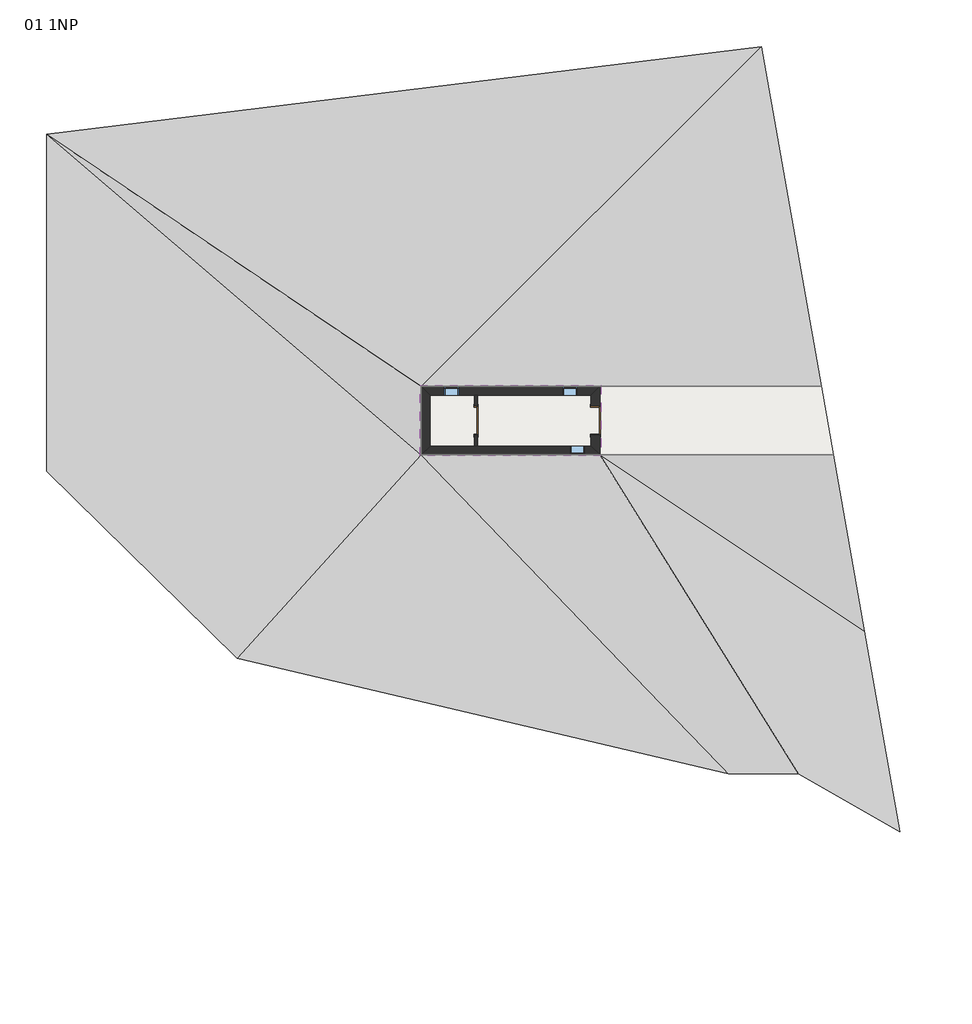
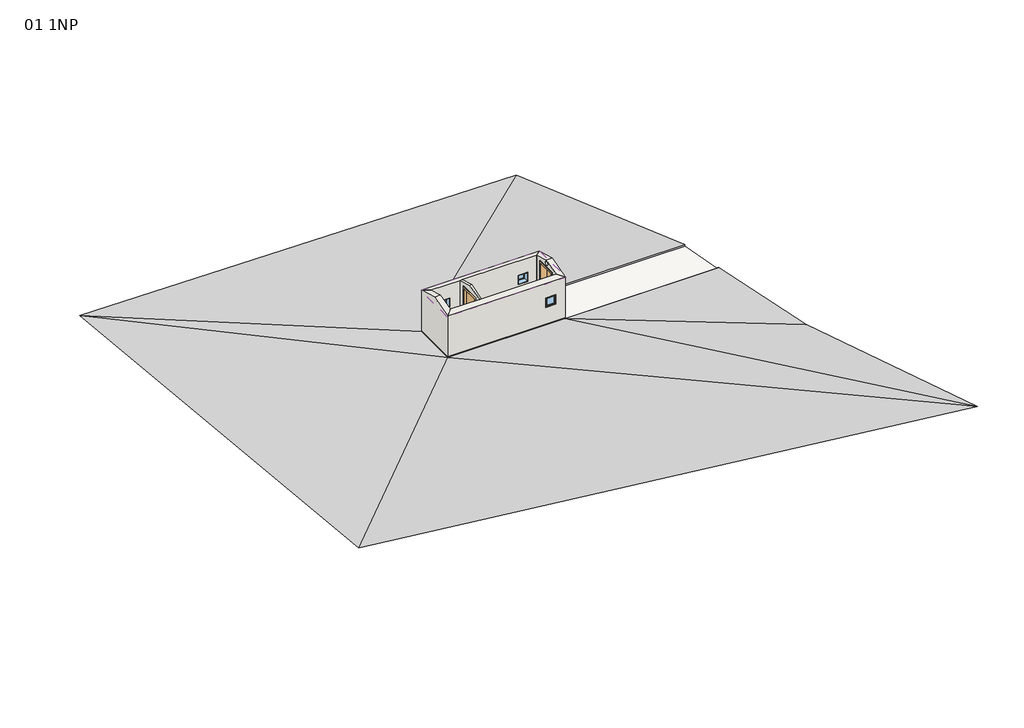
# One storey, incomplete: 5 walls, 3 windows, 2 doors, 2 proxies, 1 roof, 1 slab.
"""IFC4 building model written with IfcOpenShell, lengths in millimetres."""

from ifc_helpers import new_model, si_unit, frame, origin, place, context, project, spatial, polyline, circle_curve, outline, extrude, faceted_brep, triangles, transform, mapped, element, save
from ifc_brep_helpers import plane_surface, revolved_surface, advanced_brep
from components import ex_900x2050_f65e0c41, in_900x2050_6898c993, okno_500x500_e55a055e, okno_500x500_607495a5

model = new_model("IFC4")

# Units and contexts
model_context = context("Model", 3, world=origin())
ifc_project = project(units=[si_unit("LENGTHUNIT", "METRE", prefix="MILLI")], contexts=[model_context])

# Site, building, storey
site = spatial("IfcSite", under=ifc_project)
building = spatial("IfcBuilding", under=site)
storey = spatial("IfcBuildingStorey", under=building, Name="01 1NP", Elevation=0.0)

# Proxies
placement = place(None, origin())
element("IfcBuildingElementProxy", 1, Name="Building Element Proxy", at=placement, inside=storey, context=model_context, shape_type="Tessellation", body=[
    triangles([(-22350.4729614, 9422.7870529, 100.0000008), (-22350.4729614, -15176.8480408, 2500.0000191), (7075.9925079, -18789.9635468, 2000.0000153), (5033.5869415, -7206.9042847, 100.0000008), (3993.209166, -1306.6295471, -50.0000004), (-3816.910334, -1306.6295471, -50.0000004), (-9816.9100891, -1306.6295471, -50.0000004), (-9816.9100891, 993.3704704, -50.0000004), (-3816.910334, 993.3704704, -50.0000004), (3587.6571762, 993.3704704, -50.0000004), (1583.1549648, 12361.4664001, -2500.0000191)], [[2, 7, 1], [6, 7, 3], [11, 1, 8], [8, 1, 7], [7, 2, 3], [5, 6, 4], [9, 10, 11], [9, 11, 8], [4, 6, 3]], closed=False),
])
element("IfcBuildingElementProxy", 2, Name="Building Element Proxy", at=placement, inside=storey, context=model_context, shape_type="Tessellation", body=[
    triangles([(3587.6571762, 993.3704704, -300.1595311), (3587.6571762, 993.3704704, -50.0000004), (-3816.910334, 993.3704704, -300.1595311), (-3816.910334, 993.3704704, -50.0000004), (-9816.9100891, 993.3704704, -300.1595311), (-9816.9100891, 993.3704704, -50.0000004), (-9816.9100891, -1306.6295471, -300.1595311), (-9816.9100891, -1306.6295471, -50.0000004)], [[1, 4, 2], [1, 3, 4], [3, 6, 4], [3, 5, 6], [5, 8, 6], [5, 7, 8]], closed=False),
    triangles([(-9816.9100891, -1306.6295471, -300.1595311), (-9816.9100891, -1306.6295471, -50.0000004), (-3816.910334, -1306.6295471, -300.1595311), (-3816.910334, -1306.6295471, -50.0000004), (3993.209166, -1306.6295471, -300.1595311), (3993.209166, -1306.6295471, -50.0000004)], [[1, 4, 2], [1, 3, 4], [3, 6, 4], [3, 5, 6]], closed=False),
    triangles([(-9816.9100891, -1306.6295471, -300.1595311), (3993.209166, -1306.6295471, -300.1595311), (3587.6571762, 993.3704704, -300.1595311), (-9816.9100891, 993.3704704, -300.1595311)], [[4, 1, 3], [2, 3, 1]], closed=False),
])

# Doors
ex_900x2050_shape = ex_900x2050_f65e0c41(model_context)
element("IfcDoor", 3, ObjectType="Dveře : EX 900x2050", at=placement, inside=storey, context=model_context, shape_type="MappedRepresentation", body=[
    mapped(ex_900x2050_shape, transform((-3966.910401, -156.6295398, 0.0), x_axis=(0.0, -1.0, 0.0), y_axis=(1.0, 0.0, 0.0), z_axis=(0.0, 0.0, 1.0))),
])
in_900x2050_shape = in_900x2050_6898c993(model_context)
element("IfcDoor", 4, ObjectType="Dveře : IN 900x2050", at=placement, inside=storey, context=model_context, shape_type="MappedRepresentation", body=[
    mapped(in_900x2050_shape, transform((-7966.910401, -156.6295398, 0.0), x_axis=(0.0, 1.0, 0.0), y_axis=(-1.0, 0.0, 0.0), z_axis=(0.0, 0.0, 1.0))),
])

# Roof
element("IfcRoof", 5, ObjectType="Šikmá střecha plastová, 50mm", at=placement, inside=storey, context=model_context, shape_type="SweptSolid", body=[
    extrude(outline(polyline([(-1336.6295398, 2218.4126102), (-156.6295398, 2556.7721654), (1023.3704602, 2218.4126102), (1023.3704602, 2166.3976384), (-156.6295398, 2504.7571936), (-1336.6295398, 2166.3976384), (-1336.6295398, 2218.4126102)])), frame((-9846.910401, 0.0, 0.0), z_axis=(1.0, 0.0, 0.0), x_axis=(0.0, 1.0, 0.0)), (0.0, 0.0, 1.0), 6060.0),
])

# Slab
element("IfcSlab", 6, ObjectType="Základová deska, 150mm", at=placement, inside=storey, context=model_context, shape_type="SweptSolid", body=[
    extrude(outline(polyline([(-9816.910401, -1306.6295398), (-9816.910401, 993.3704602), (3587.6570406, 993.3704602), (3993.2090962, -1306.6295398), (-9816.910401, -1306.6295398)])), frame((0.0, 0.0, -300.0), z_axis=(0.0, 0.0, 1.0), x_axis=(1.0, 0.0, 0.0)), (0.0, 0.0, 1.0), 150.0),
])

# Walls
element("IfcWall", 7, ObjectType="Obvodová, 300mm", at=placement, inside=storey, context=model_context, shape_type="Brep", body=[
    faceted_brep([(-4116.910401, -1006.6295398, 0.0), (-7916.910401, -1006.6295398, 0.0), (-8016.910401, -1006.6295398, 0.0), (-9516.910401, -1006.6295398, 0.0), (-9516.910401, -1006.6295398, 2261.0236157), (-8016.910401, -1006.6295398, 2261.0236157), (-7916.910401, -1006.6295398, 2261.0236157), (-4116.910401, -1006.6295398, 2261.0236157), (-4816.910401, -1006.6295398, 900.0), (-4316.910401, -1006.6295398, 900.0), (-4316.910401, -1006.6295398, 1400.0), (-4816.910401, -1006.6295398, 1400.0), (-3816.910401, -1306.6295398, 0.0), (-3816.910401, -1306.6295398, 2175.0), (-9816.910401, -1306.6295398, 2175.0), (-9816.910401, -1306.6295398, 0.0), (-4816.910401, -1306.6295398, 900.0), (-4816.910401, -1306.6295398, 1400.0), (-4316.910401, -1306.6295398, 1400.0), (-4316.910401, -1306.6295398, 900.0)], [[[0, 1, 2, 3, 4, 5, 6, 7], [8, 9, 10, 11]], [[12, 13, 14, 15], [16, 17, 18, 19]], [[3, 2, 1, 0, 12, 15]], [[0, 7, 13, 12]], [[4, 3, 15, 14]], [[7, 6, 5, 4, 14, 13]], [[17, 16, 8, 11]], [[18, 17, 11, 10]], [[19, 18, 10, 9]], [[16, 19, 9, 8]]]),
])
element("IfcWall", 8, ObjectType="Obvodová, 300mm", at=placement, inside=storey, context=model_context, shape_type="AdvancedBrep", body=[
    advanced_brep(
    [(-4116.910401, 693.3704602, 2261.0236157), (-4116.910401, 693.3704602, 0.0), (-4116.910401, 338.3704602, 0.0), (-4116.910401, 338.3704602, 2095.0), (-4116.910401, -651.6295398, 2095.0), (-4116.910401, -651.6295398, 0.0), (-4116.910401, -1006.6295398, 0.0), (-4116.910401, -1006.6295398, 2261.0236157), (-4116.910401, -156.6295398, 2504.7571936), (-4116.910401, -256.6295398, 2327.3785968), (-4116.910401, -56.6295398, 2327.3785968), (-3816.910401, 993.3704602, 0.0), (-3816.910401, 993.3704602, 2175.0), (-3816.910401, -156.6295398, 2504.7571936), (-3816.910401, -1306.6295398, 2175.0), (-3816.910401, -1306.6295398, 0.0), (-3816.910401, -651.6295398, 0.0), (-3816.910401, -651.6295398, 2095.0), (-3816.910401, 338.3704602, 2095.0), (-3816.910401, 338.3704602, 0.0), (-3816.910401, -56.6295398, 2327.3785968), (-3816.910401, -256.6295398, 2327.3785968)],
    [
        (0, 1),
        (1, 2),
        (2, 3),
        (3, 4),
        (4, 5),
        (5, 6),
        (6, 7),
        (7, 8),
        (8, 0),
        (9, 10, circle_curve(frame((-4116.910401, -156.6295398, 2327.3785968), z_axis=(1.0, 0.0, 0.0), x_axis=(0.0, 1.0, 0.0)), 100.0)),
        (10, 9, circle_curve(frame((-4116.910401, -156.6295398, 2327.3785968), z_axis=(1.0, 0.0, 0.0), x_axis=(0.0, 1.0, 0.0)), 100.0)),
        (11, 12),
        (12, 13),
        (13, 14),
        (14, 15),
        (15, 16),
        (16, 17),
        (17, 18),
        (18, 19),
        (19, 11),
        (20, 21, circle_curve(frame((-3816.910401, -156.6295398, 2327.3785968), z_axis=(-1.0, 0.0, 0.0), x_axis=(0.0, 1.0, 0.0)), 100.0)),
        (21, 20, circle_curve(frame((-3816.910401, -156.6295398, 2327.3785968), z_axis=(-1.0, 0.0, 0.0), x_axis=(0.0, 1.0, 0.0)), 100.0)),
        (0, 12),
        (11, 1),
        (6, 15),
        (14, 7),
        (4, 17),
        (16, 5),
        (18, 3),
        (2, 19),
        (9, 21),
        (20, 10),
        (8, 13),
    ],
    [
        plane_surface(frame((-4116.910401, -632.3142978, 0.0), z_axis=(-1.0, 0.0, 0.0), x_axis=(0.0, -1.0, 0.0))),
        plane_surface(frame((-3816.910401, -632.3142978, 0.0), z_axis=(1.0, 0.0, 0.0), x_axis=(0.0, 1.0, 0.0))),
        plane_surface(frame((-3816.910401, 993.3704602, 0.0), z_axis=(-0.7071067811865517, 0.7071067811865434, 0.0), x_axis=(-0.7071067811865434, -0.7071067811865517, 0.0))),
        plane_surface(frame((-4116.910401, -1006.6295398, 0.0), z_axis=(-0.7071067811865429, -0.7071067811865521, 0.0), x_axis=(0.7071067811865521, -0.7071067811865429, 0.0))),
        plane_surface(frame((-2592.910401, -651.6295398, 2095.0), z_axis=(0.0, 1.0, 0.0), x_axis=(-1.0, 0.0, 0.0))),
        plane_surface(frame((-2592.910401, 338.3704602, 0.0), z_axis=(0.0, -1.0, 0.0), x_axis=(-1.0, 0.0, 0.0))),
        plane_surface(frame((-2592.910401, 338.3704602, 2095.0), z_axis=(0.0, 0.0, -1.0), x_axis=(-1.0, 0.0, 0.0))),
        plane_surface(frame((-4116.910401, 843.3704602, 0.0), z_axis=(0.0, 0.0, -1.0), x_axis=(1.0, 0.0, 0.0))),
        revolved_surface(polyline([(-3816.910401, -56.6295398, 2327.3785968), (-4116.910401, -56.6295398, 2327.3785968)]), (-3966.910401, -156.6295398, 2327.3785968), (1.0, 0.0, 0.0)),
        plane_surface(frame((-3786.910401, 1023.3704602, 2166.3976384), z_axis=(0.0, 0.275637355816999, 0.961261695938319), x_axis=(-1.0, 0.0, 0.0))),
        plane_surface(frame((-9846.910401, -1336.6295398, 2166.3976384), z_axis=(0.0, -0.275637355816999, 0.961261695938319), x_axis=(1.0, 0.0, 0.0))),
    ],
    [
        (0, [[1, 2, 3, 4, 5, 6, 7, 8, 9], [10, 11]]),
        (1, [[12, 13, 14, 15, 16, 17, 18, 19, 20], [21, 22]]),
        (2, [[-1, 23, -12, 24]]),
        (3, [[-7, 25, -15, 26]]),
        (4, [[27, -17, 28, -5]]),
        (5, [[29, -3, 30, -19]]),
        (6, [[-27, -4, -29, -18]]),
        (7, [[-24, -20, -30, -2]]),
        (7, [[-25, -6, -28, -16]]),
        (8, [[-10, 31, -21, 32]]),
        (8, [[-11, -32, -22, -31]]),
        (9, [[-23, -9, 33, -13]]),
        (10, [[-26, -14, -33, -8]]),
    ],
),
])
element("IfcWall", 9, ObjectType="Obvodová, 300mm", at=placement, inside=storey, context=model_context, shape_type="Brep", body=[
    faceted_brep([(-9516.910401, 693.3704602, 0.0), (-8016.910401, 693.3704602, 0.0), (-7916.910401, 693.3704602, 0.0), (-4116.910401, 693.3704602, 0.0), (-4116.910401, 693.3704602, 2261.0236157), (-7916.910401, 693.3704602, 2261.0236157), (-8016.910401, 693.3704602, 2261.0236157), (-9516.910401, 693.3704602, 2261.0236157), (-4574.910401, 693.3704602, 1000.0), (-5074.910401, 693.3704602, 1000.0), (-5074.910401, 693.3704602, 1500.0), (-4574.910401, 693.3704602, 1500.0), (-9044.910401, 693.3704602, 1000.0), (-9044.910401, 693.3704602, 1500.0), (-8544.910401, 693.3704602, 1500.0), (-8544.910401, 693.3704602, 1000.0), (-9816.910401, 993.3704602, 0.0), (-9816.910401, 993.3704602, 2175.0), (-3816.910401, 993.3704602, 2175.0), (-3816.910401, 993.3704602, 0.0), (-4574.910401, 993.3704602, 1000.0), (-4574.910401, 993.3704602, 1500.0), (-5074.910401, 993.3704602, 1500.0), (-5074.910401, 993.3704602, 1000.0), (-9044.910401, 993.3704602, 1000.0), (-8544.910401, 993.3704602, 1000.0), (-8544.910401, 993.3704602, 1500.0), (-9044.910401, 993.3704602, 1500.0)], [[[0, 1, 2, 3, 4, 5, 6, 7], [8, 9, 10, 11], [12, 13, 14, 15]], [[16, 17, 18, 19], [20, 21, 22, 23], [24, 25, 26, 27]], [[3, 2, 1, 0, 16, 19]], [[4, 3, 19, 18]], [[0, 7, 17, 16]], [[7, 6, 5, 4, 18, 17]], [[21, 20, 8, 11]], [[22, 21, 11, 10]], [[23, 22, 10, 9]], [[20, 23, 9, 8]], [[13, 12, 24, 27]], [[14, 13, 27, 26]], [[15, 14, 26, 25]], [[12, 15, 25, 24]]]),
])
element("IfcWall", 10, ObjectType="Obvodová, 300mm", at=placement, inside=storey, context=model_context, shape_type="Brep", body=[
    faceted_brep([(-9516.910401, -1006.6295398, 0.0), (-9516.910401, 693.3704602, 0.0), (-9516.910401, 693.3704602, 2261.0236157), (-9516.910401, -156.6295398, 2504.7571936), (-9516.910401, -1006.6295398, 2261.0236157), (-9816.910401, -1306.6295398, 0.0), (-9816.910401, -1306.6295398, 2175.0), (-9816.910401, -156.6295398, 2504.7571936), (-9816.910401, 993.3704602, 2175.0), (-9816.910401, 993.3704602, 0.0)], [[[0, 1, 2, 3, 4]], [[5, 6, 7, 8, 9]], [[1, 0, 5, 9]], [[0, 4, 6, 5]], [[2, 1, 9, 8]], [[4, 3, 7, 6]], [[3, 2, 8, 7]]]),
])
element("IfcWall", 11, ObjectType="Vnitřní, 100mm", at=placement, inside=storey, context=model_context, shape_type="SweptSolid", body=[
    extrude(outline(polyline([(-1006.6295398, 0.0), (-1006.6295398, 2261.0236157), (-156.6295398, 2504.7571936), (693.3704602, 2261.0236157), (693.3704602, 0.0), (338.3704602, 0.0), (338.3704602, 2095.0), (-651.6295398, 2095.0), (-651.6295398, 0.0), (-1006.6295398, 0.0)])), frame((-8016.910401, 0.0, 0.0), z_axis=(1.0, 0.0, 0.0), x_axis=(0.0, 1.0, 0.0)), (0.0, 0.0, 1.0), 100.0),
])

# Windows
okno_500x500_shape = okno_500x500_e55a055e(model_context)
element("IfcWindow", 12, ObjectType="Okno : 500x500", at=placement, inside=storey, context=model_context, shape_type="MappedRepresentation", body=[
    mapped(okno_500x500_shape, transform((-8794.910401, 830.3704602, 1000.0), x_axis=(1.0, 0.0, 0.0), y_axis=(0.0, 1.0, 0.0), z_axis=(0.0, 0.0, 1.0))),
])
okno_500x500_2_shape = okno_500x500_607495a5(model_context)
element("IfcWindow", 13, ObjectType="Okno : 500x500", at=placement, inside=storey, context=model_context, shape_type="MappedRepresentation", body=[
    mapped(okno_500x500_2_shape, transform((-4824.910401, 830.3704602, 1000.0), x_axis=(-1.0, 0.0, 0.0), y_axis=(0.0, -1.0, 0.0), z_axis=(0.0, 0.0, 1.0))),
])
element("IfcWindow", 14, ObjectType="Okno : 500x500", at=placement, inside=storey, context=model_context, shape_type="MappedRepresentation", body=[
    mapped(okno_500x500_2_shape, transform((-4566.910401, -1143.6295398, 900.0), x_axis=(1.0, 0.0, 0.0), y_axis=(0.0, 1.0, 0.0), z_axis=(0.0, 0.0, 1.0))),
])

save(model, "model.ifc")
